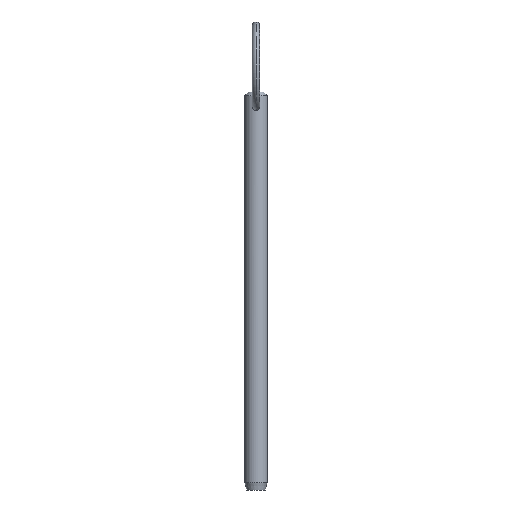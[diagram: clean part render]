
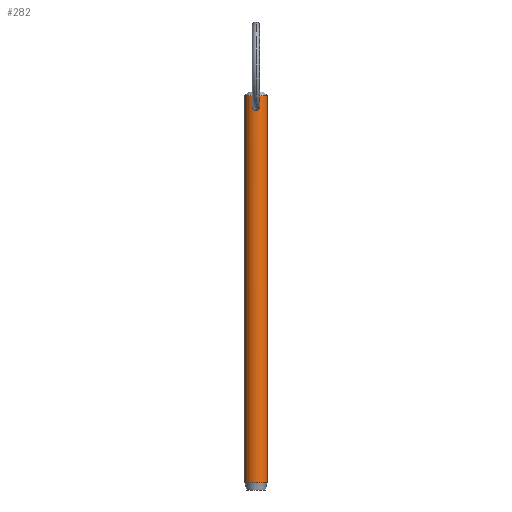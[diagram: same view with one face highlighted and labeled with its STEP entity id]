
A CAD part, front view. The second image highlights one B-rep face of the part: STEP entity #282.
In plain terms, the highlighted cylindrical face has radius 3.175 mm (diameter 6.35 mm), a partial arc.
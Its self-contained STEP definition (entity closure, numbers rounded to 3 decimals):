
#17 = CARTESIAN_POINT ( 'NONE',  ( 3.175, 0., 99.1 ) ) ;
#26 = VERTEX_POINT ( 'NONE', #430 ) ;
#30 = CARTESIAN_POINT ( 'NONE',  ( 0., 0., 103.68 ) ) ;
#35 = FACE_OUTER_BOUND ( 'NONE', #310, .T. ) ;
#37 = DIRECTION ( 'NONE',  ( 0., 0., -1. ) ) ;
#38 = FACE_BOUND ( 'NONE', #230, .T. ) ;
#39 = ORIENTED_EDGE ( 'NONE', *, *, #152, .T. ) ;
#57 = CARTESIAN_POINT ( 'NONE',  ( 3.175, 0., 103.68 ) ) ;
#67 = CARTESIAN_POINT ( 'NONE',  ( 0., 0., -5.92 ) ) ;
#73 = DIRECTION ( 'NONE',  ( 0., 0., 1. ) ) ;
#90 = ORIENTED_EDGE ( 'NONE', *, *, #398, .F. ) ;
#98 = B_SPLINE_CURVE_WITH_KNOTS ( 'NONE', 3,
 ( #211, #254, #241, #359, #472, #250, #390, #326, #104, #169, #364, #475, #209, #142, #428, #467, #245, #172 ),
 .UNSPECIFIED., .F., .F.,
 ( 4, 2, 2, 2, 2, 2, 2, 2, 4 ),
 ( 0.006, 0.006, 0.007, 0.007, 0.008, 0.008, 0.009, 0.009, 0.009 ),
 .UNSPECIFIED. ) ;
#102 = CARTESIAN_POINT ( 'NONE',  ( -3.175, 0., 103.68 ) ) ;
#104 = CARTESIAN_POINT ( 'NONE',  ( -1.004, -3.012, 100.395 ) ) ;
#114 = CARTESIAN_POINT ( 'NONE',  ( 0.628, -3.114, 99.704 ) ) ;
#116 = CARTESIAN_POINT ( 'NONE',  ( 0.617, -3.116, 101.351 ) ) ;
#119 = VERTEX_POINT ( 'NONE', #287 ) ;
#142 = CARTESIAN_POINT ( 'NONE',  ( -0.328, -3.159, 101.521 ) ) ;
#147 = CARTESIAN_POINT ( 'NONE',  ( 0.134, -3.175, 101.582 ) ) ;
#152 = EDGE_CURVE ( 'NONE', #26, #232, #482, .T. ) ;
#169 = CARTESIAN_POINT ( 'NONE',  ( -0.991, -3.016, 100.796 ) ) ;
#172 = CARTESIAN_POINT ( 'NONE',  ( 0., -3.175, 101.582 ) ) ;
#184 = CARTESIAN_POINT ( 'NONE',  ( 0.515, -3.135, 99.63 ) ) ;
#185 = EDGE_CURVE ( 'NONE', #218, #119, #471, .T. ) ;
#190 = LINE ( 'NONE', #308, #419 ) ;
#199 = ORIENTED_EDGE ( 'NONE', *, *, #339, .T. ) ;
#209 = CARTESIAN_POINT ( 'NONE',  ( -0.508, -3.136, 101.435 ) ) ;
#211 = CARTESIAN_POINT ( 'NONE',  ( 0., -3.175, 99.503 ) ) ;
#218 = VERTEX_POINT ( 'NONE', #485 ) ;
#220 = DIRECTION ( 'NONE',  ( -1., 0., 0. ) ) ;
#223 = CARTESIAN_POINT ( 'NONE',  ( 0.992, -3.016, 100.794 ) ) ;
#227 = CARTESIAN_POINT ( 'NONE',  ( 1.004, -3.012, 100.393 ) ) ;
#230 = EDGE_LOOP ( 'NONE', ( #39, #199 ) ) ;
#232 = VERTEX_POINT ( 'NONE', #371 ) ;
#237 = CYLINDRICAL_SURFACE ( 'NONE', #461, 3.175 ) ;
#241 = CARTESIAN_POINT ( 'NONE',  ( -0.269, -3.166, 99.529 ) ) ;
#245 = CARTESIAN_POINT ( 'NONE',  ( -0.067, -3.175, 101.582 ) ) ;
#250 = CARTESIAN_POINT ( 'NONE',  ( -0.815, -3.07, 99.895 ) ) ;
#254 = CARTESIAN_POINT ( 'NONE',  ( -0.134, -3.175, 99.503 ) ) ;
#262 = CARTESIAN_POINT ( 'NONE',  ( 0.815, -3.07, 99.895 ) ) ;
#274 = AXIS2_PLACEMENT_3D ( 'NONE', #30, #377, #453 ) ;
#282 = ADVANCED_FACE ( 'NONE', ( #35, #38 ), #237, .T. ) ;
#283 = EDGE_CURVE ( 'NONE', #329, #376, #349, .T. ) ;
#286 = ORIENTED_EDGE ( 'NONE', *, *, #307, .T. ) ;
#287 = CARTESIAN_POINT ( 'NONE',  ( 3.175, 0., -5.92 ) ) ;
#300 = DIRECTION ( 'NONE',  ( 0., 0., -1. ) ) ;
#303 = CARTESIAN_POINT ( 'NONE',  ( 0.982, -3.02, 100.258 ) ) ;
#305 = CARTESIAN_POINT ( 'NONE',  ( 0., 0., 99.1 ) ) ;
#307 = EDGE_CURVE ( 'NONE', #376, #218, #190, .T. ) ;
#308 = CARTESIAN_POINT ( 'NONE',  ( -3.175, 0., 99.1 ) ) ;
#310 = EDGE_LOOP ( 'NONE', ( #90, #317, #286, #311 ) ) ;
#311 = ORIENTED_EDGE ( 'NONE', *, *, #185, .T. ) ;
#317 = ORIENTED_EDGE ( 'NONE', *, *, #283, .T. ) ;
#326 = CARTESIAN_POINT ( 'NONE',  ( -0.983, -3.02, 100.259 ) ) ;
#329 = VERTEX_POINT ( 'NONE', #57 ) ;
#339 = EDGE_CURVE ( 'NONE', #232, #26, #98, .T. ) ;
#343 = DIRECTION ( 'NONE',  ( -1., 0., 0. ) ) ;
#348 = AXIS2_PLACEMENT_3D ( 'NONE', #67, #73, #220 ) ;
#349 = CIRCLE ( 'NONE', #274, 3.175 ) ;
#359 = CARTESIAN_POINT ( 'NONE',  ( -0.516, -3.135, 99.631 ) ) ;
#364 = CARTESIAN_POINT ( 'NONE',  ( -0.882, -3.055, 101.06 ) ) ;
#371 = CARTESIAN_POINT ( 'NONE',  ( 0., -3.175, 99.503 ) ) ;
#373 = CARTESIAN_POINT ( 'NONE',  ( 0.888, -3.049, 100.009 ) ) ;
#376 = VERTEX_POINT ( 'NONE', #102 ) ;
#377 = DIRECTION ( 'NONE',  ( 0., 0., -1. ) ) ;
#390 = CARTESIAN_POINT ( 'NONE',  ( -0.888, -3.049, 100.009 ) ) ;
#398 = EDGE_CURVE ( 'NONE', #329, #119, #444, .T. ) ;
#404 = CARTESIAN_POINT ( 'NONE',  ( 0., -3.175, 101.582 ) ) ;
#406 = CARTESIAN_POINT ( 'NONE',  ( 0.884, -3.055, 101.057 ) ) ;
#411 = CARTESIAN_POINT ( 'NONE',  ( 0.51, -3.136, 101.434 ) ) ;
#415 = CARTESIAN_POINT ( 'NONE',  ( 0.269, -3.166, 101.55 ) ) ;
#419 = VECTOR ( 'NONE', #37, 1000. ) ;
#425 = VECTOR ( 'NONE', #469, 1000. ) ;
#428 = CARTESIAN_POINT ( 'NONE',  ( -0.264, -3.165, 101.544 ) ) ;
#430 = CARTESIAN_POINT ( 'NONE',  ( 0., -3.175, 101.582 ) ) ;
#443 = CARTESIAN_POINT ( 'NONE',  ( 0.268, -3.166, 99.529 ) ) ;
#444 = LINE ( 'NONE', #17, #425 ) ;
#447 = CARTESIAN_POINT ( 'NONE',  ( 0.134, -3.175, 99.503 ) ) ;
#453 = DIRECTION ( 'NONE',  ( 1., 0., 0. ) ) ;
#461 = AXIS2_PLACEMENT_3D ( 'NONE', #305, #300, #343 ) ;
#467 = CARTESIAN_POINT ( 'NONE',  ( -0.133, -3.173, 101.574 ) ) ;
#469 = DIRECTION ( 'NONE',  ( 0., 0., -1. ) ) ;
#471 = CIRCLE ( 'NONE', #348, 3.175 ) ;
#472 = CARTESIAN_POINT ( 'NONE',  ( -0.629, -3.114, 99.705 ) ) ;
#475 = CARTESIAN_POINT ( 'NONE',  ( -0.615, -3.116, 101.353 ) ) ;
#479 = CARTESIAN_POINT ( 'NONE',  ( 0., -3.175, 99.503 ) ) ;
#482 = B_SPLINE_CURVE_WITH_KNOTS ( 'NONE', 3,
 ( #404, #147, #415, #411, #116, #406, #223, #227, #303, #373, #262, #114, #184, #443, #447, #479 ),
 .UNSPECIFIED., .F., .F.,
 ( 4, 2, 2, 2, 2, 2, 2, 4 ),
 ( 0.003, 0.003, 0.004, 0.004, 0.005, 0.005, 0.006, 0.006 ),
 .UNSPECIFIED. ) ;
#485 = CARTESIAN_POINT ( 'NONE',  ( -3.175, 0., -5.92 ) ) ;
